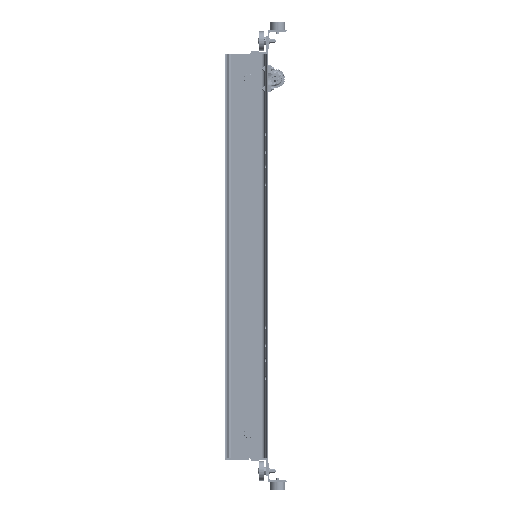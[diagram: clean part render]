
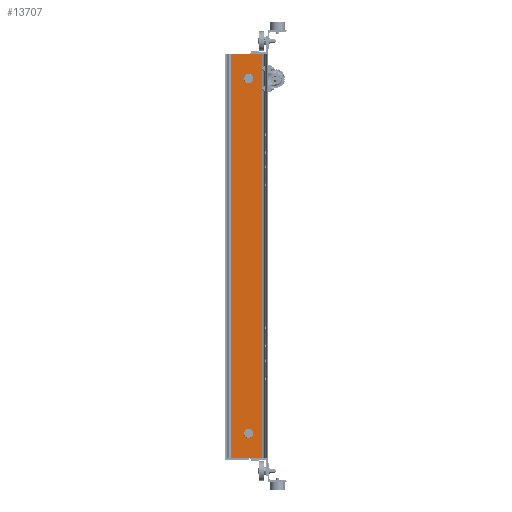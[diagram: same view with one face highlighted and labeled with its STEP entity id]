
A CAD part, left-side view. The second image highlights one B-rep face of the part: STEP entity #13707.
In plain terms, the highlighted planar face has unit normal (-1, 0, 0) as drawn and (1, 0, 0) by its records, which use the part's own axes.
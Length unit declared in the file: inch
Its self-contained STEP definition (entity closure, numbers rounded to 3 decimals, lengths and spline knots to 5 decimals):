
#6876 = DIRECTION ( 'NONE',  ( -1., 0., 0. ) ) ;
#10209 = CIRCLE ( 'NONE', #101327, 0.789 ) ;
#10924 = CARTESIAN_POINT ( 'NONE',  ( 0.353, 1.14232, -37.5 ) ) ;
#11222 = EDGE_CURVE ( 'NONE', #204373, #80871, #10209, .T. ) ;
#12911 = FACE_BOUND ( 'NONE', #41042, .T. ) ;
#13707 = ADVANCED_FACE ( 'NONE', ( #160015, #210448, #12911 ), #127031, .T. ) ;
#15488 = DIRECTION ( 'NONE',  ( 0., 1., 0. ) ) ;
#17176 = CARTESIAN_POINT ( 'NONE',  ( 0.353, 6.85768, -37.5 ) ) ;
#25449 = ORIENTED_EDGE ( 'NONE', *, *, #11222, .T. ) ;
#41042 = EDGE_LOOP ( 'NONE', ( #109267, #201472 ) ) ;
#42488 = AXIS2_PLACEMENT_3D ( 'NONE', #194016, #161076, #177538 ) ;
#45780 = ORIENTED_EDGE ( 'NONE', *, *, #97146, .T. ) ;
#49130 = DIRECTION ( 'NONE',  ( 0., 0., -1. ) ) ;
#49269 = EDGE_LOOP ( 'NONE', ( #140244, #196121, #107329, #169592 ) ) ;
#53198 = VERTEX_POINT ( 'NONE', #17176 ) ;
#58821 = EDGE_CURVE ( 'NONE', #152278, #53198, #126554, .T. ) ;
#59556 = CARTESIAN_POINT ( 'NONE',  ( 0.353, 3.622, -32.211 ) ) ;
#66419 = CARTESIAN_POINT ( 'NONE',  ( 0.353, 3.622, -33. ) ) ;
#68038 = CARTESIAN_POINT ( 'NONE',  ( 0.353, 3.622, 33.789 ) ) ;
#68746 = CARTESIAN_POINT ( 'NONE',  ( 0.353, 1.14232, 37.5 ) ) ;
#75879 = VERTEX_POINT ( 'NONE', #212565 ) ;
#78745 = LINE ( 'NONE', #161111, #161861 ) ;
#79913 = CARTESIAN_POINT ( 'NONE',  ( 0.353, 6.85768, -37.5 ) ) ;
#80174 = DIRECTION ( 'NONE',  ( -1., 0., 0. ) ) ;
#80871 = VERTEX_POINT ( 'NONE', #162811 ) ;
#85025 = VECTOR ( 'NONE', #93145, 39.37008 ) ;
#86916 = DIRECTION ( 'NONE',  ( -1., 0., 0. ) ) ;
#88598 = VECTOR ( 'NONE', #109354, 39.37008 ) ;
#92602 = AXIS2_PLACEMENT_3D ( 'NONE', #66419, #86916, #103372 ) ;
#93145 = DIRECTION ( 'NONE',  ( 0., -1., 0. ) ) ;
#94731 = DIRECTION ( 'NONE',  ( 0., 0., -1. ) ) ;
#95433 = CIRCLE ( 'NONE', #123454, 0.789 ) ;
#97146 = EDGE_CURVE ( 'NONE', #80871, #204373, #95433, .T. ) ;
#101327 = AXIS2_PLACEMENT_3D ( 'NONE', #197644, #80174, #15488 ) ;
#103372 = DIRECTION ( 'NONE',  ( 0., 1., 0. ) ) ;
#107329 = ORIENTED_EDGE ( 'NONE', *, *, #107331, .T. ) ;
#107331 = EDGE_CURVE ( 'NONE', #152278, #136204, #111479, .T. ) ;
#107771 = EDGE_CURVE ( 'NONE', #193381, #75879, #207704, .T. ) ;
#109267 = ORIENTED_EDGE ( 'NONE', *, *, #107771, .T. ) ;
#109354 = DIRECTION ( 'NONE',  ( 0., -1., 0. ) ) ;
#111479 = LINE ( 'NONE', #126877, #88598 ) ;
#123454 = AXIS2_PLACEMENT_3D ( 'NONE', #144373, #197051, #194891 ) ;
#126554 = LINE ( 'NONE', #193558, #139132 ) ;
#126877 = CARTESIAN_POINT ( 'NONE',  ( 0.353, 6.85768, 37.5 ) ) ;
#127031 = PLANE ( 'NONE',  #42488 ) ;
#136204 = VERTEX_POINT ( 'NONE', #68746 ) ;
#137426 = DIRECTION ( 'NONE',  ( 0., 1., 0. ) ) ;
#137956 = EDGE_CURVE ( 'NONE', #136204, #192094, #78745, .T. ) ;
#139097 = CARTESIAN_POINT ( 'NONE',  ( 0.353, 6.85768, 37.5 ) ) ;
#139132 = VECTOR ( 'NONE', #94731, 39.37008 ) ;
#140244 = ORIENTED_EDGE ( 'NONE', *, *, #140860, .F. ) ;
#140860 = EDGE_CURVE ( 'NONE', #53198, #192094, #163354, .T. ) ;
#144373 = CARTESIAN_POINT ( 'NONE',  ( 0.353, 3.622, 33. ) ) ;
#152278 = VERTEX_POINT ( 'NONE', #139097 ) ;
#156119 = CARTESIAN_POINT ( 'NONE',  ( 0.353, 3.622, -33. ) ) ;
#160015 = FACE_BOUND ( 'NONE', #202368, .T. ) ;
#161076 = DIRECTION ( 'NONE',  ( 1., 0., 0. ) ) ;
#161111 = CARTESIAN_POINT ( 'NONE',  ( 0.353, 1.14232, 37.5 ) ) ;
#161861 = VECTOR ( 'NONE', #49130, 39.37008 ) ;
#162107 = AXIS2_PLACEMENT_3D ( 'NONE', #156119, #6876, #137426 ) ;
#162811 = CARTESIAN_POINT ( 'NONE',  ( 0.353, 3.622, 32.211 ) ) ;
#163354 = LINE ( 'NONE', #79913, #85025 ) ;
#169592 = ORIENTED_EDGE ( 'NONE', *, *, #137956, .T. ) ;
#177538 = DIRECTION ( 'NONE',  ( 0., 1., 0. ) ) ;
#192094 = VERTEX_POINT ( 'NONE', #10924 ) ;
#193381 = VERTEX_POINT ( 'NONE', #59556 ) ;
#193558 = CARTESIAN_POINT ( 'NONE',  ( 0.353, 6.85768, 37.5 ) ) ;
#194016 = CARTESIAN_POINT ( 'NONE',  ( 0.353, 6.85768, 37.5 ) ) ;
#194891 = DIRECTION ( 'NONE',  ( 0., 1., 0. ) ) ;
#196121 = ORIENTED_EDGE ( 'NONE', *, *, #58821, .F. ) ;
#197051 = DIRECTION ( 'NONE',  ( -1., 0., 0. ) ) ;
#197644 = CARTESIAN_POINT ( 'NONE',  ( 0.353, 3.622, 33. ) ) ;
#201472 = ORIENTED_EDGE ( 'NONE', *, *, #215259, .T. ) ;
#202368 = EDGE_LOOP ( 'NONE', ( #25449, #45780 ) ) ;
#204373 = VERTEX_POINT ( 'NONE', #68038 ) ;
#204642 = CIRCLE ( 'NONE', #92602, 0.789 ) ;
#207704 = CIRCLE ( 'NONE', #162107, 0.789 ) ;
#210448 = FACE_OUTER_BOUND ( 'NONE', #49269, .T. ) ;
#212565 = CARTESIAN_POINT ( 'NONE',  ( 0.353, 3.622, -33.789 ) ) ;
#215259 = EDGE_CURVE ( 'NONE', #75879, #193381, #204642, .T. ) ;
